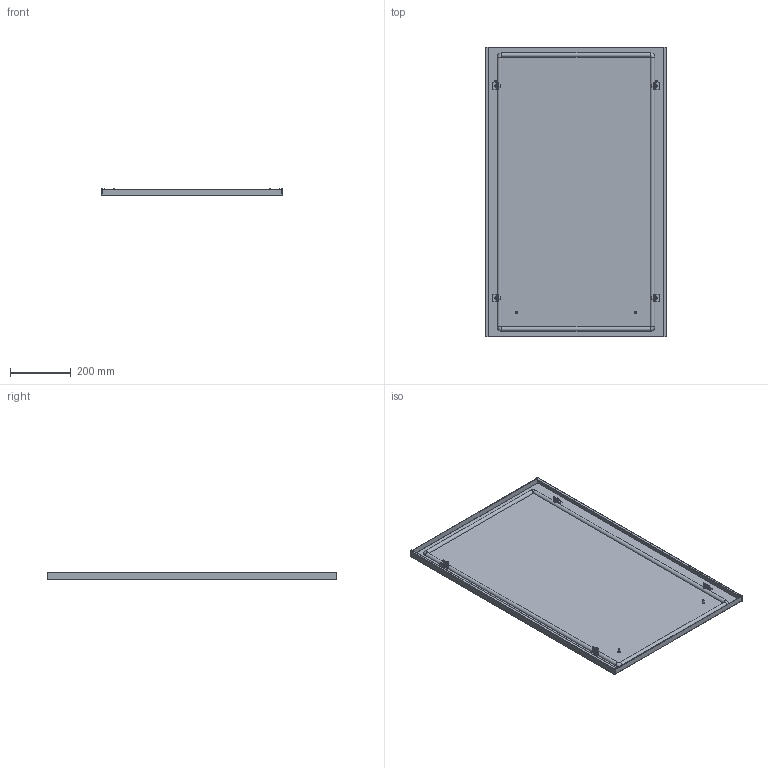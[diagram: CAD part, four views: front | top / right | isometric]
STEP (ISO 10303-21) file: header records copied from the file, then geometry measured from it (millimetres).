
FILE_DESCRIPTION(('Open CASCADE Model'),'2;1');
FILE_NAME('Open CASCADE Shape Model','2025-02-07T16:30:43',('Author'),( 'Open CASCADE'),'Open CASCADE STEP processor 7.8','Open CASCADE 7.8' ,'Unknown');
FILE_SCHEMA(('AUTOMOTIVE_DESIGN { 1 0 10303 214 1 1 1 1 }'));
Length unit declared in the file: millimetre
Products named in the file (10): Compound1; Compound2; Compound3; Solid1; Solid2; Solid3; Solid4; Solid5; Solid6; Solid7
Assembly tree (24 placements, depth 4):
  Compound1
    Compound2
      Compound3
        Solid1
        Solid2  x4
      Solid3
    Solid4  x4
    Solid5  x4
    Solid6  x4
    Solid7  x4
Bounding box: 594 x 955 x 23.8 mm (x, y, z)
Volume: 1225353.9 mm3; surface area: 1418164.6 mm2
Topology: 22 solids, 22 shells, 859 faces, 2090 edges, 1274 vertices
Faces by surface type: plane 543, cone 156, cylinder 140, torus 12, revolution 4, bspline 4
Full cylindrical faces by diameter (mm): 5 x8, 6 x68, 7.5 x4, 8 x8, 10 x4, 11.57 x4
Entity records: 7545 total; most frequent: CARTESIAN_POINT 1487, ORIENTED_EDGE 1216, DIRECTION 1201, EDGE_CURVE 608, LINE 409, VECTOR 409, AXIS2_PLACEMENT_3D 394, VERTEX_POINT 377
